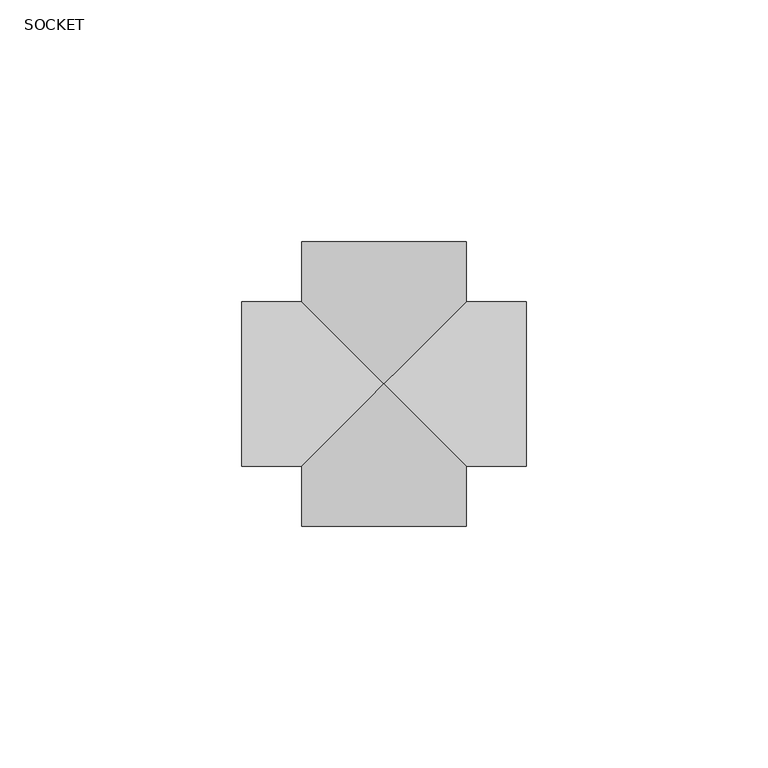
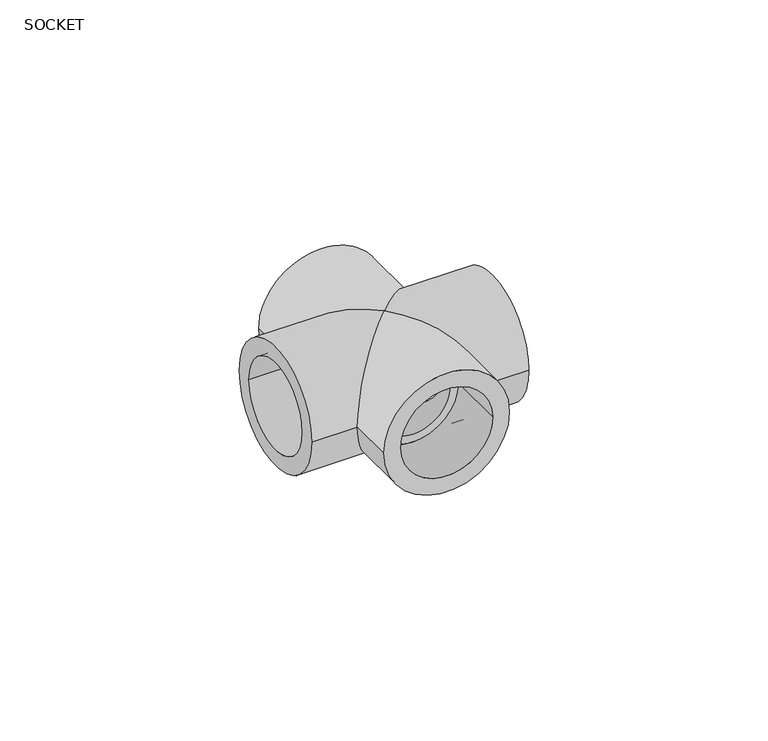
"""IFC4 building model written with IfcOpenShell, lengths in millimetres: pipe fitting geometry, Aquatherm - Cross Socket : SOCKET."""

import ifcopenshell
import ifcopenshell.guid

model = None  # the IFC model being written
_history = None  # IfcOwnerHistory: only IFC2X3 demands one
_inside = {}  # id of a spatial element -> (the spatial element, [elements in it])
_under = {}  # id of a project, library or spatial element -> (it, [spatial elements below it])
_declared = {}  # id of a project -> (the project, [libraries it declares])
_typed = {}  # id of a type object -> (the type object, [elements of that type])
_made_of = {}  # id of a material, layer set ... -> (it, [elements and type objects made of it])


def new_model(schema):
    """Start an empty IFC model of exactly this schema.

    Asked for "IFC4X3", IfcOpenShell would pick the latest addendum, in which some entities
    have other attributes; the version numbers below select the first issue.
    IFC2X3 requires an IfcOwnerHistory on every rooted entity: one is made here for all.
    """
    global model, _history
    if schema == "IFC4X3":
        model = ifcopenshell.file(schema_version=(4, 3, 0, 0))
    else:
        model = ifcopenshell.file(schema=schema)
    _inside.clear()
    _under.clear()
    _declared.clear()
    _typed.clear()
    _made_of.clear()
    _history = None
    if model.schema == "IFC2X3":
        org = make("IfcOrganization", Name="unknown")
        user = make(
            "IfcPersonAndOrganization",
            ThePerson=make("IfcPerson", FamilyName="unknown"),
            TheOrganization=org,
        )
        app = make(
            "IfcApplication",
            ApplicationDeveloper=org,
            Version="unknown",
            ApplicationFullName="unknown",
            ApplicationIdentifier="unknown",
        )
        _history = make(
            "IfcOwnerHistory",
            OwningUser=user,
            OwningApplication=app,
            ChangeAction="ADDED",
            CreationDate=0,
        )
    return model


def make(cls, **values):
    """One entity of the class cls with the attributes given. An attribute that is None is left unset."""
    return model.create_entity(
        cls, **{name: value for name, value in values.items() if value is not None}
    )


def rooted(cls, **values):
    """An entity with a GlobalId (a new one), such as an element, a storey or a relation."""
    return make(cls, GlobalId=ifcopenshell.guid.new(), OwnerHistory=_history, **values)


def si_unit(unit_type, name, prefix=None):
    """IfcSIUnit, for example si_unit("LENGTHUNIT", "METRE", prefix="MILLI")."""
    return make("IfcSIUnit", UnitType=unit_type, Prefix=prefix, Name=name)


def assignment(units):
    """IfcUnitAssignment: the units of a project."""
    return None if units is None else make("IfcUnitAssignment", Units=units)


def point(xyz):
    """IfcCartesianPoint."""
    return None if xyz is None else make("IfcCartesianPoint", Coordinates=xyz)


def direction(xyz):
    """IfcDirection."""
    return None if xyz is None else make("IfcDirection", DirectionRatios=xyz)


def frame(location, z_axis=None, x_axis=None):
    """IfcAxis2Placement3D, a coordinate frame: its origin and axes. An axis left out is left unset."""
    return make(
        "IfcAxis2Placement3D",
        Location=point(location),
        Axis=direction(z_axis),
        RefDirection=direction(x_axis),
    )


def origin():
    """The frame at (0, 0, 0) with its axes left unset."""
    return frame((0.0, 0.0, 0.0))


def place(relative_to, where):
    """IfcLocalPlacement: puts the frame where relative to a parent placement (None: the world)."""
    return make(
        "IfcLocalPlacement", PlacementRelTo=relative_to, RelativePlacement=where
    )


def context(
    kind, dimensions, precision=None, world=None, true_north=None, identifier=None
):
    """IfcGeometricRepresentationContext, for example the 3D "Model" context."""
    return make(
        "IfcGeometricRepresentationContext",
        ContextIdentifier=identifier,
        ContextType=kind,
        CoordinateSpaceDimension=dimensions,
        Precision=precision,
        WorldCoordinateSystem=world,
        TrueNorth=true_north,
    )


def project(units=None, contexts=None):
    """IfcProject with its units and contexts."""
    return rooted(
        "IfcProject",
        Name="project",
        RepresentationContexts=contexts,
        UnitsInContext=assignment(units),
    )


def spatial(cls, under=None, at=None, **own):
    """A site, building, storey or space (cls), placed at a placement, below another one or the project."""
    s = rooted(cls, ObjectPlacement=at, **own)
    if under is not None:
        _under.setdefault(under.id(), (under, []))[1].append(s)
    return s


def polyline(points):
    """IfcPolyline through the points."""
    return make("IfcPolyline", Points=[point(p) for p in points])


def circle_curve(where, radius):
    """IfcCircle in the frame where."""
    return make("IfcCircle", Position=where, Radius=radius)


def ellipse_curve(where, semi_axis1, semi_axis2):
    """IfcEllipse in the frame where."""
    return make(
        "IfcEllipse", Position=where, SemiAxis1=semi_axis1, SemiAxis2=semi_axis2
    )


def shape(context_of_items, identifier, shape_type, items):
    """IfcShapeRepresentation: the items that make up one representation, for example the "Body"."""
    return make(
        "IfcShapeRepresentation",
        ContextOfItems=context_of_items,
        RepresentationIdentifier=identifier,
        RepresentationType=shape_type,
        Items=items,
    )


def source(mapping_origin, context_of_items, identifier, shape_type, items):
    """IfcRepresentationMap: a shape defined once, which mapped items show again and again."""
    return make(
        "IfcRepresentationMap",
        MappingOrigin=mapping_origin,
        MappedRepresentation=shape(context_of_items, identifier, shape_type, items),
    )


def transform(
    local_origin,
    x_axis=None,
    y_axis=None,
    z_axis=None,
    scale=None,
    scale2=None,
    scale3=None,
    uniform=True,
):
    """IfcCartesianTransformationOperator3D, or its non-uniform kind. x_axis, y_axis, z_axis: its Axis1, 2, 3."""
    if uniform:
        return make(
            "IfcCartesianTransformationOperator3D",
            Axis1=direction(x_axis),
            Axis2=direction(y_axis),
            LocalOrigin=point(local_origin),
            Scale=scale,
            Axis3=direction(z_axis),
        )
    return make(
        "IfcCartesianTransformationOperator3DnonUniform",
        Axis1=direction(x_axis),
        Axis2=direction(y_axis),
        LocalOrigin=point(local_origin),
        Scale=scale,
        Axis3=direction(z_axis),
        Scale2=scale2,
        Scale3=scale3,
    )


def mapped(mapping_source, mapping_target):
    """IfcMappedItem: shows the shape of a source again, moved by a transform."""
    return make(
        "IfcMappedItem", MappingSource=mapping_source, MappingTarget=mapping_target
    )


def made_of(thing, what):
    """Note that an element or type object is made of a material, layer set ...; save() writes the relation."""
    if what is not None:
        _made_of.setdefault(what.id(), (what, []))[1].append(thing)
    return thing


def element(
    cls,
    number,
    at=None,
    inside=None,
    cuts=None,
    type_object=None,
    material=None,
    context=None,
    identifier="Body",
    shape_type=None,
    held_by="IfcProductDefinitionShape",
    body=None,
    shapes=None,
    **own,
):
    """One element of the class cls, such as IfcWall. Its Tag is "e" and its number.

    at: its placement. inside: the storey or other place that contains it. cuts: it is an
    opening in that element (IfcRelVoidsElement). A single representation is given by context,
    identifier, shape_type and body (its items); several are given by shapes. held_by: the class
    of the entity that holds the representations. save() writes the other relations.
    """
    e = rooted(cls, Tag="e%d" % number, ObjectPlacement=at, **own)
    if body is not None:
        shapes = [shape(context, identifier, shape_type, body)]
    if shapes is not None:
        e.Representation = make(held_by, Representations=shapes)
    if inside is not None:
        _inside.setdefault(inside.id(), (inside, []))[1].append(e)
    if cuts is not None:
        rooted(
            "IfcRelVoidsElement", RelatingBuildingElement=cuts, RelatedOpeningElement=e
        )
    if type_object is not None:
        _typed.setdefault(type_object.id(), (type_object, []))[1].append(e)
    return made_of(e, material)


def aggregate(whole, parts):
    """IfcRelAggregates: a whole, such as a stair, and the parts it consists of."""
    return rooted("IfcRelAggregates", RelatingObject=whole, RelatedObjects=parts)


def save(model, path):
    """Write the relations noted so far, then the file.

    IfcRelAggregates (storeys below a building ...), IfcRelContainedInSpatialStructure (elements
    in a storey), IfcRelDefinesByType, IfcRelAssociatesMaterial and IfcRelDeclares: one each for
    every whole, place, type object, material and project.
    """
    for whole, parts in _under.values():
        aggregate(whole, parts)
    for where, things in _inside.values():
        rooted(
            "IfcRelContainedInSpatialStructure",
            RelatedElements=things,
            RelatingStructure=where,
        )
    for kind, things in _typed.values():
        rooted("IfcRelDefinesByType", RelatedObjects=things, RelatingType=kind)
    for what, things in _made_of.values():
        rooted("IfcRelAssociatesMaterial", RelatedObjects=things, RelatingMaterial=what)
    for by, libraries in _declared.values():
        rooted("IfcRelDeclares", RelatingContext=by, RelatedDefinitions=libraries)
    model.write(path)


def plane_surface(at):
    """IfcPlane: the flat surface through the origin of the frame at, square to its z axis."""
    return make("IfcPlane", Position=at)


def cylinder_surface(at, radius):
    """IfcCylindricalSurface: all points at the distance radius from the z axis of the frame at."""
    return make("IfcCylindricalSurface", Position=at, Radius=radius)


def revolved_surface(curve, axis_point, axis_direction):
    """IfcSurfaceOfRevolution: the curve turned about the line through axis_point along axis_direction."""
    return make(
        "IfcSurfaceOfRevolution",
        SweptCurve=make("IfcArbitraryOpenProfileDef", ProfileType="CURVE", Curve=curve),
        AxisPosition=make("IfcAxis1Placement", Location=point(axis_point), Axis=direction(axis_direction)),
    )


def advanced_brep(points, edges, surfaces, faces):
    """IfcAdvancedBrep: a solid bounded by faces that lie on surfaces and meet in shared edges.

    An edge is (start, end): straight between two places in points (the first is 0);
    or (start, end, curve); or (start, end, curve, False) where it runs against its curve.
    A face is (place in surfaces, loops), or (place, loops, False) where it looks against
    its surface's normal. A loop lists edges by number (the first is 1), with a minus sign
    where the edge is run from its end to its start. The first loop is the outer one.
    """
    corners = [point(p) for p in points]
    vertices = [make("IfcVertexPoint", VertexGeometry=c) for c in corners]
    made = []
    for start, end, *more in edges:
        made.append(
            make(
                "IfcEdgeCurve",
                EdgeStart=vertices[start],
                EdgeEnd=vertices[end],
                EdgeGeometry=more[0] if more else make("IfcPolyline", Points=[corners[start], corners[end]]),
                SameSense=more[1] if len(more) > 1 else True,
            )
        )
    hull = []
    for where, loops, *sense in faces:
        bounds = []
        for j, loop in enumerate(loops):
            ring = [make("IfcOrientedEdge", EdgeElement=made[abs(k) - 1], Orientation=k > 0) for k in loop]
            bounds.append(
                make(
                    "IfcFaceOuterBound" if j == 0 else "IfcFaceBound",
                    Bound=make("IfcEdgeLoop", EdgeList=ring),
                    Orientation=True,
                )
            )
        hull.append(make("IfcAdvancedFace", Bounds=bounds, FaceSurface=surfaces[where], SameSense=sense[0] if sense else True))
    return make("IfcAdvancedBrep", Outer=make("IfcClosedShell", CfsFaces=hull))


def socket_7ab5a1c1(model_context):
    return source(origin(), model_context, "Body", "AdvancedBrep", [
        advanced_brep(
        [(-17.018, -29.464, 0.0), (17.018, -29.464, 0.0), (12.446, -29.464, 0.0), (-12.446, -29.464, 0.0), (-17.018, 29.464, 0.0), (17.018, 29.464, 0.0), (-12.446, 29.464, 0.0), (12.446, 29.464, 0.0), (-17.018, -17.018, 0.0), (0.0, 0.0, -17.018), (17.018, -17.018, 0.0), (17.018, 17.018, 0.0), (-17.018, 17.018, 0.0), (0.0, 0.0, 17.018), (29.464, -17.018, 0.0), (29.464, 17.018, 0.0), (29.464, 12.446, 0.0), (29.464, -12.446, 0.0), (-29.464, -17.018, 0.0), (-29.464, 17.018, 0.0), (-29.464, -12.446, 0.0), (-29.464, 12.446, 0.0), (-13.462, -12.446, 0.0), (-13.462, 12.446, 0.0), (13.462, -12.446, 0.0), (13.462, 12.446, 0.0), (13.462, 10.1830909, 0.0), (13.462, -10.1830909, 0.0), (10.1830909, 10.1830909, 0.0), (0.0, 0.0, -10.1830909), (10.1830909, -10.1830909, 0.0), (-13.462, 10.1830909, 0.0), (-13.462, -10.1830909, 0.0), (-10.1830909, -10.1830909, 0.0), (-10.1830909, 10.1830909, 0.0), (0.0, 0.0, 10.1830909), (-12.446, -13.462, 0.0), (12.446, -13.462, 0.0), (-12.446, 13.462, 0.0), (12.446, 13.462, 0.0), (-10.1830909, 13.462, 0.0), (10.1830909, 13.462, 0.0), (-10.1830909, -13.462, 0.0), (10.1830909, -13.462, 0.0)],
        [
            (0, 1, circle_curve(frame((0.0, -29.464, 0.0), z_axis=(0.0, -1.0, 0.0), x_axis=(1.0, 0.0, 0.0)), 17.018)),
            (1, 0, circle_curve(frame((0.0, -29.464, 0.0), z_axis=(0.0, -1.0, 0.0), x_axis=(1.0, 0.0, 0.0)), 17.018)),
            (2, 3, circle_curve(frame((0.0, -29.464, 0.0), z_axis=(0.0, 1.0, 0.0), x_axis=(1.0, 0.0, 0.0)), 12.446)),
            (3, 2, circle_curve(frame((0.0, -29.464, 0.0), z_axis=(0.0, 1.0, 0.0), x_axis=(1.0, 0.0, 0.0)), 12.446)),
            (4, 5, circle_curve(frame((0.0, 29.464, 0.0), z_axis=(0.0, 1.0, 0.0), x_axis=(1.0, 0.0, 0.0)), 17.018)),
            (5, 4, circle_curve(frame((0.0, 29.464, 0.0), z_axis=(0.0, 1.0, 0.0), x_axis=(1.0, 0.0, 0.0)), 17.018)),
            (6, 7, circle_curve(frame((0.0, 29.464, 0.0), z_axis=(0.0, -1.0, 0.0), x_axis=(1.0, 0.0, 0.0)), 12.446)),
            (7, 6, circle_curve(frame((0.0, 29.464, 0.0), z_axis=(0.0, -1.0, 0.0), x_axis=(1.0, 0.0, 0.0)), 12.446)),
            (0, 8),
            (8, 9, ellipse_curve(frame((0.0, 0.0, 0.0), z_axis=(0.7071067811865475, -0.7071067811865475, 0.0), x_axis=(-0.7071067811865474, -0.7071067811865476, 0.0)), 24.0670864, 17.018)),
            (9, 10, ellipse_curve(frame((0.0, 0.0, 0.0), z_axis=(-0.7071067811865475, -0.7071067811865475, 0.0), x_axis=(0.7071067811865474, -0.7071067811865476, 0.0)), 24.0670864, 17.018)),
            (10, 1),
            (5, 11),
            (11, 9, ellipse_curve(frame((0.0, 0.0, 0.0), z_axis=(-0.7071067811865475, 0.7071067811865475, 0.0), x_axis=(-0.7071067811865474, -0.7071067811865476, 0.0)), 24.0670864, 17.018)),
            (9, 12, ellipse_curve(frame((0.0, 0.0, 0.0), z_axis=(0.7071067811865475, 0.7071067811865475, 0.0), x_axis=(0.7071067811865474, -0.7071067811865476, 0.0)), 24.0670864, 17.018)),
            (12, 4),
            (10, 13, ellipse_curve(frame((0.0, 0.0, 0.0), z_axis=(-0.7071067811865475, -0.7071067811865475, 0.0), x_axis=(0.7071067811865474, -0.7071067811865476, 0.0)), 24.0670864, 17.018)),
            (13, 8, ellipse_curve(frame((0.0, 0.0, 0.0), z_axis=(0.7071067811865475, -0.7071067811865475, 0.0), x_axis=(-0.7071067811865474, -0.7071067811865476, 0.0)), 24.0670864, 17.018)),
            (12, 13, ellipse_curve(frame((0.0, 0.0, 0.0), z_axis=(0.7071067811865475, 0.7071067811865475, 0.0), x_axis=(0.7071067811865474, -0.7071067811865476, 0.0)), 24.0670864, 17.018)),
            (13, 11, ellipse_curve(frame((0.0, 0.0, 0.0), z_axis=(-0.7071067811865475, 0.7071067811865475, 0.0), x_axis=(-0.7071067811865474, -0.7071067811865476, 0.0)), 24.0670864, 17.018)),
            (14, 15, circle_curve(frame((29.464, 0.0, 0.0), z_axis=(1.0, 0.0, 0.0), x_axis=(0.0, 1.0, 0.0)), 17.018)),
            (15, 14, circle_curve(frame((29.464, 0.0, 0.0), z_axis=(1.0, 0.0, 0.0), x_axis=(0.0, 1.0, 0.0)), 17.018)),
            (16, 17, circle_curve(frame((29.464, 0.0, 0.0), z_axis=(-1.0, 0.0, 0.0), x_axis=(0.0, 1.0, 0.0)), 12.446)),
            (17, 16, circle_curve(frame((29.464, 0.0, 0.0), z_axis=(-1.0, 0.0, 0.0), x_axis=(0.0, 1.0, 0.0)), 12.446)),
            (18, 19, circle_curve(frame((-29.464, 0.0, 0.0), z_axis=(-1.0, 0.0, 0.0), x_axis=(0.0, 1.0, 0.0)), 17.018)),
            (19, 18, circle_curve(frame((-29.464, 0.0, 0.0), z_axis=(-1.0, 0.0, 0.0), x_axis=(0.0, 1.0, 0.0)), 17.018)),
            (20, 21, circle_curve(frame((-29.464, 0.0, 0.0), z_axis=(1.0, 0.0, 0.0), x_axis=(0.0, 1.0, 0.0)), 12.446)),
            (21, 20, circle_curve(frame((-29.464, 0.0, 0.0), z_axis=(1.0, 0.0, 0.0), x_axis=(0.0, 1.0, 0.0)), 12.446)),
            (14, 10),
            (11, 15),
            (19, 12),
            (8, 18),
            (20, 22),
            (22, 23, circle_curve(frame((-13.462, 0.0, 0.0), z_axis=(1.0, 0.0, 0.0), x_axis=(0.0, 1.0, 0.0)), 12.446)),
            (23, 21),
            (23, 22, circle_curve(frame((-13.462, 0.0, 0.0), z_axis=(1.0, 0.0, 0.0), x_axis=(0.0, 1.0, 0.0)), 12.446)),
            (24, 17),
            (16, 25),
            (25, 24, circle_curve(frame((13.462, 0.0, 0.0), z_axis=(-1.0, 0.0, 0.0), x_axis=(0.0, 1.0, 0.0)), 12.446)),
            (24, 25, circle_curve(frame((13.462, 0.0, 0.0), z_axis=(-1.0, 0.0, 0.0), x_axis=(0.0, 1.0, 0.0)), 12.446)),
            (25, 26),
            (26, 27, circle_curve(frame((13.462, 0.0, 0.0), z_axis=(-1.0, 0.0, 0.0), x_axis=(0.0, 1.0, 0.0)), 10.1830909)),
            (27, 24),
            (27, 26, circle_curve(frame((13.462, 0.0, 0.0), z_axis=(-1.0, 0.0, 0.0), x_axis=(0.0, 1.0, 0.0)), 10.1830909)),
            (26, 28),
            (28, 29, ellipse_curve(frame((0.0, 0.0, 0.0), z_axis=(-0.7071067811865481, 0.7071067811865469, 0.0), x_axis=(-0.7071067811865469, -0.7071067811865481, 0.0)), 14.4010653, 10.1830909)),
            (29, 30, ellipse_curve(frame((0.0, 0.0, 0.0), z_axis=(-0.7071067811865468, -0.7071067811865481, 0.0), x_axis=(-0.7071067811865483, 0.7071067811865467, 0.0)), 14.4010653, 10.1830909)),
            (30, 27),
            (31, 32, circle_curve(frame((-13.462, 0.0, 0.0), z_axis=(-1.0, 0.0, 0.0), x_axis=(0.0, 1.0, 0.0)), 10.1830909)),
            (32, 33),
            (33, 29, ellipse_curve(frame((0.0, 0.0, 0.0), z_axis=(0.7071067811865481, -0.7071067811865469, 0.0), x_axis=(-0.7071067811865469, -0.7071067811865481, 0.0)), 14.4010653, 10.1830909)),
            (29, 34, ellipse_curve(frame((0.0, 0.0, 0.0), z_axis=(0.7071067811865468, 0.7071067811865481, 0.0), x_axis=(-0.7071067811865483, 0.7071067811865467, 0.0)), 14.4010653, 10.1830909)),
            (34, 31),
            (30, 35, ellipse_curve(frame((0.0, 0.0, 0.0), z_axis=(-0.7071067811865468, -0.7071067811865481, 0.0), x_axis=(-0.7071067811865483, 0.7071067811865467, 0.0)), 14.4010653, 10.1830909)),
            (35, 28, ellipse_curve(frame((0.0, 0.0, 0.0), z_axis=(-0.7071067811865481, 0.7071067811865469, 0.0), x_axis=(-0.7071067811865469, -0.7071067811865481, 0.0)), 14.4010653, 10.1830909)),
            (32, 31, circle_curve(frame((-13.462, 0.0, 0.0), z_axis=(-1.0, 0.0, 0.0), x_axis=(0.0, 1.0, 0.0)), 10.1830909)),
            (34, 35, ellipse_curve(frame((0.0, 0.0, 0.0), z_axis=(0.7071067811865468, 0.7071067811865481, 0.0), x_axis=(-0.7071067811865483, 0.7071067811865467, 0.0)), 14.4010653, 10.1830909)),
            (35, 33, ellipse_curve(frame((0.0, 0.0, 0.0), z_axis=(0.7071067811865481, -0.7071067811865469, 0.0), x_axis=(-0.7071067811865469, -0.7071067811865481, 0.0)), 14.4010653, 10.1830909)),
            (22, 32),
            (31, 23),
            (36, 3),
            (2, 37),
            (37, 36, circle_curve(frame((0.0, -13.462, 0.0), z_axis=(0.0, 1.0, 0.0), x_axis=(1.0, 0.0, 0.0)), 12.446)),
            (36, 37, circle_curve(frame((0.0, -13.462, 0.0), z_axis=(0.0, 1.0, 0.0), x_axis=(1.0, 0.0, 0.0)), 12.446)),
            (6, 38),
            (38, 39, circle_curve(frame((0.0, 13.462, 0.0), z_axis=(0.0, -1.0, 0.0), x_axis=(1.0, 0.0, 0.0)), 12.446)),
            (39, 7),
            (39, 38, circle_curve(frame((0.0, 13.462, 0.0), z_axis=(0.0, -1.0, 0.0), x_axis=(1.0, 0.0, 0.0)), 12.446)),
            (38, 40),
            (40, 41, circle_curve(frame((0.0, 13.462, 0.0), z_axis=(0.0, -1.0, 0.0), x_axis=(1.0, 0.0, 0.0)), 10.1830909)),
            (41, 39),
            (41, 40, circle_curve(frame((0.0, 13.462, 0.0), z_axis=(0.0, -1.0, 0.0), x_axis=(1.0, 0.0, 0.0)), 10.1830909)),
            (40, 34),
            (28, 41),
            (42, 43, circle_curve(frame((0.0, -13.462, 0.0), z_axis=(0.0, -1.0, 0.0), x_axis=(1.0, 0.0, 0.0)), 10.1830909)),
            (43, 30),
            (33, 42),
            (43, 42, circle_curve(frame((0.0, -13.462, 0.0), z_axis=(0.0, -1.0, 0.0), x_axis=(1.0, 0.0, 0.0)), 10.1830909)),
            (37, 43),
            (42, 36),
        ],
        [
            plane_surface(frame((17.018, -29.464, 0.0), z_axis=(0.0, -1.0, 0.0), x_axis=(0.0, 0.0, 1.0))),
            plane_surface(frame((17.018, 29.464, 0.0), z_axis=(0.0, 1.0, 0.0), x_axis=(0.0, 0.0, -1.0))),
            cylinder_surface(frame((0.0, 29.464, 0.0), z_axis=(0.0, -1.0, 0.0), x_axis=(1.0, 0.0, 0.0)), 17.018),
            plane_surface(frame((29.464, 17.018, 0.0), z_axis=(1.0, 0.0, 0.0), x_axis=(0.0, 0.0, 1.0))),
            plane_surface(frame((-29.464, 17.018, 0.0), z_axis=(-1.0, 0.0, 0.0), x_axis=(0.0, 0.0, -1.0))),
            cylinder_surface(frame((-29.464, 0.0, 0.0), z_axis=(1.0, 0.0, 0.0), x_axis=(0.0, 1.0, 0.0)), 17.018),
            revolved_surface(polyline([(-29.464, 12.446, 0.0), (-13.462, 12.446, 0.0)]), (-44.2219939, 0.0, 0.0), (-1.0, 0.0, 0.0)),
            revolved_surface(polyline([(13.462000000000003, 12.446, 0.0), (29.464, 12.446, 0.0)]), (-44.2219939, 0.0, 0.0), (-1.0, 0.0, 0.0)),
            plane_surface(frame((13.462, 0.0, 0.0), z_axis=(1.0, 0.0, 0.0), x_axis=(0.0, 1.0, 0.0))),
            revolved_surface(polyline([(-10.183090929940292, 10.1830909, 0.0), (13.462000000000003, 10.1830909, 0.0)]), (-44.2219939, 0.0, 0.0), (-1.0, 0.0, 0.0)),
            revolved_surface(polyline([(-13.462, 10.1830909, 0.0), (10.183090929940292, 10.1830909, 0.0)]), (-44.2219939, 0.0, 0.0), (-1.0, 0.0, 0.0)),
            plane_surface(frame((-13.462, 0.0, 0.0), z_axis=(-1.0, 0.0, 0.0), x_axis=(0.0, 1.0, 0.0))),
            revolved_surface(polyline([(12.446, -13.462, 0.0), (12.446, -29.464, 0.0)]), (0.0, -44.2219939, 0.0), (0.0, 1.0, 0.0)),
            revolved_surface(polyline([(12.446, 29.464, 0.0), (12.446, 13.462000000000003, 0.0)]), (0.0, -44.2219939, 0.0), (0.0, 1.0, 0.0)),
            plane_surface(frame((0.0, 13.462, 0.0), z_axis=(0.0, 1.0, 0.0), x_axis=(1.0, 0.0, 0.0))),
            revolved_surface(polyline([(10.1830909, 13.462000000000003, 0.0), (10.1830909, -10.183090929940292, 0.0)]), (0.0, -44.2219939, 0.0), (0.0, 1.0, 0.0)),
            revolved_surface(polyline([(10.1830909, 10.183090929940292, 0.0), (10.1830909, -13.462, 0.0)]), (0.0, -44.2219939, 0.0), (0.0, 1.0, 0.0)),
            plane_surface(frame((0.0, -13.462, 0.0), z_axis=(0.0, -1.0, 0.0), x_axis=(1.0, 0.0, 0.0))),
        ],
        [
            (0, [[1, 2], [3, 4]]),
            (1, [[5, 6], [7, 8]]),
            (2, [[-1, 9, 10, 11, 12]]),
            (2, [[-6, 13, 14, 15, 16]]),
            (2, [[-2, -12, 17, 18, -9]]),
            (2, [[-5, -16, 19, 20, -13]]),
            (3, [[21, 22], [23, 24]]),
            (4, [[25, 26], [27, 28]]),
            (5, [[-21, 29, -11, -14, 30]]),
            (5, [[-26, 31, -15, -10, 32]]),
            (5, [[-22, -30, -20, -17, -29]]),
            (5, [[-25, -32, -18, -19, -31]]),
            (6, [[33, 34, 35, -27]]),
            (6, [[-33, -28, -35, 36]]),
            (7, [[37, -23, 38, 39]]),
            (7, [[-37, 40, -38, -24]]),
            (8, [[-39, 41, 42, 43]]),
            (8, [[-40, -43, 44, -41]]),
            (9, [[-42, 45, 46, 47, 48]]),
            (10, [[49, 50, 51, 52, 53]]),
            (9, [[-44, -48, 54, 55, -45]]),
            (10, [[56, -53, 57, 58, -50]]),
            (11, [[-34, 59, -49, 60]]),
            (11, [[-36, -60, -56, -59]]),
            (12, [[61, -3, 62, 63]]),
            (12, [[-61, 64, -62, -4]]),
            (13, [[65, 66, 67, -7]]),
            (13, [[-65, -8, -67, 68]]),
            (14, [[-66, 69, 70, 71]]),
            (14, [[-68, -71, 72, -69]]),
            (15, [[-70, 73, -52, -46, 74]]),
            (16, [[75, 76, -47, -51, 77]]),
            (15, [[-72, -74, -55, -57, -73]]),
            (16, [[78, -77, -58, -54, -76]]),
            (17, [[-63, 79, -75, 80]]),
            (17, [[-64, -80, -78, -79]]),
        ],
    ),
    ])


if __name__ == "__main__":
    model = new_model("IFC4")
    model_context = context("Model", 3, world=origin())
    ifc_project = project(units=[si_unit("LENGTHUNIT", "METRE", prefix="MILLI")], contexts=[model_context])
    site = spatial("IfcSite", under=ifc_project)
    building = spatial("IfcBuilding", under=site)
    placement = place(None, origin())
    ifc_socket_shape = socket_7ab5a1c1(model_context)
    element("IfcPipeFitting", 1, ObjectType="Aquatherm - Cross Socket : SOCKET", at=placement, inside=building, context=model_context, shape_type="MappedRepresentation", body=[
        mapped(ifc_socket_shape, transform((0.0, 0.0, 0.0), x_axis=(1.0, 0.0, 0.0), y_axis=(0.0, 1.0, 0.0), z_axis=(0.0, 0.0, 1.0))),
    ])
    save(model, "model.ifc")
